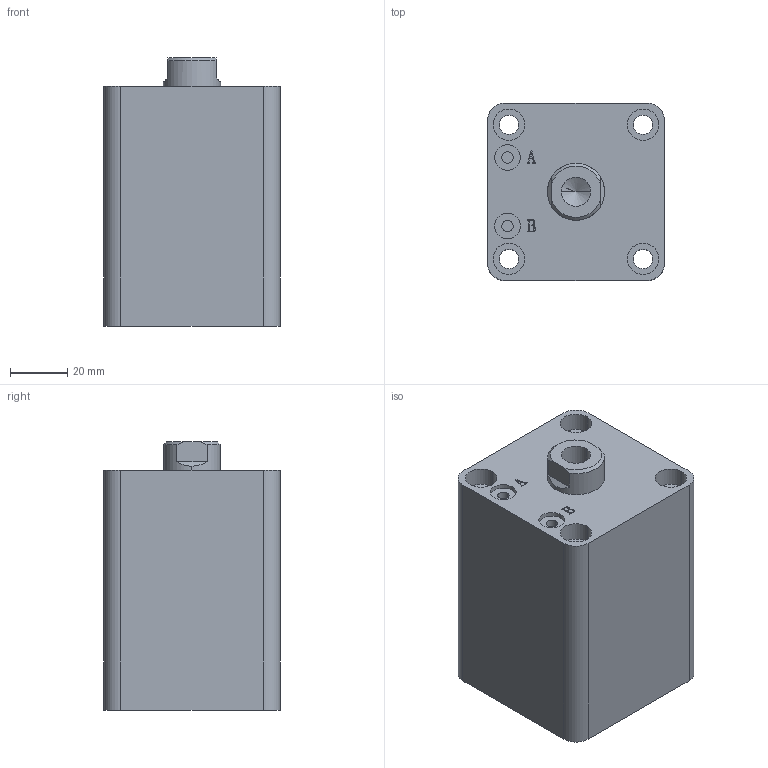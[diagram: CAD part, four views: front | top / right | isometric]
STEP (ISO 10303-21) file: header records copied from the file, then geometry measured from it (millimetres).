
FILE_DESCRIPTION (( 'STEP AP203' ), '1' );
FILE_NAME ('HTB-SDMA32-30N.STEP', '2019-10-07T11:39:39', ( '微软用户' ), ( '微软中国' ), 'SwSTEP 2.0', 'SolidWorks 2012', '' );
FILE_SCHEMA (( 'CONFIG_CONTROL_DESIGN' ));
Length unit declared in the file: millimetre
Products named in the file (3): HTB-SDMA32-30N; HTB-SDMA32-30N活塞杆; HTB-SDMA32-30掛极
Assembly tree (2 placements, depth 2):
  HTB-SDMA32-30N
    HTB-SDMA32-30掛极
    HTB-SDMA32-30N活塞杆
Bounding box: 62 x 62 x 94 mm (x, y, z)
Volume: 291351.7 mm3; surface area: 51037 mm2
Topology: 2 solids, 2 shells, 137 faces, 331 edges, 217 vertices
Faces by surface type: plane 65, cylinder 46, bspline 16, torus 6, cone 4
Entity records: 5070 total; most frequent: CARTESIAN_POINT 1576, ORIENTED_EDGE 658, DIRECTION 647, EDGE_CURVE 329, AXIS2_PLACEMENT_3D 232, VERTEX_POINT 217, VECTOR 183, LINE 183
